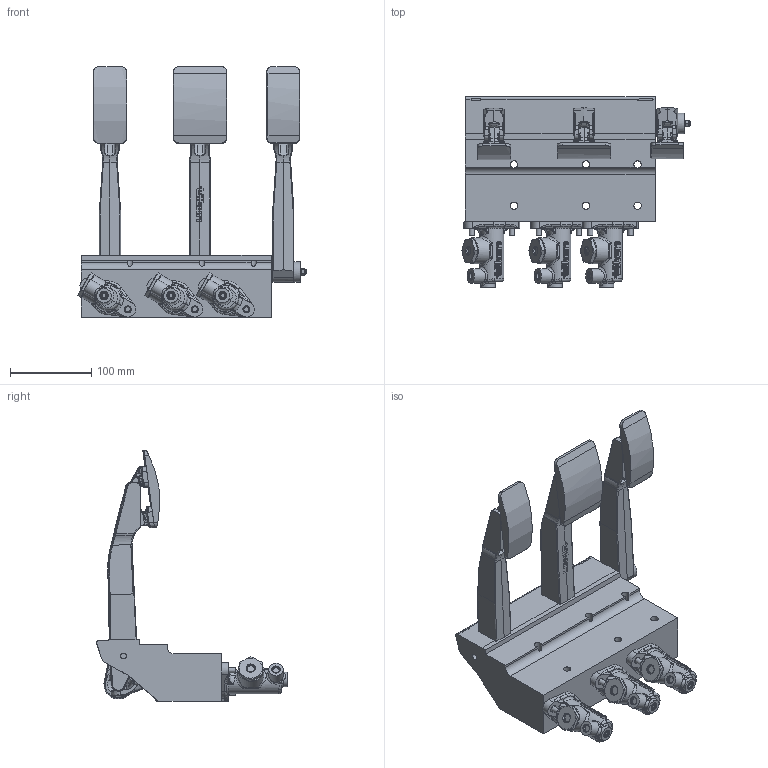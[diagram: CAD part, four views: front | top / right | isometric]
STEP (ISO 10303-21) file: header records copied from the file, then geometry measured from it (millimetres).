
FILE_DESCRIPTION( ( 'Unknown' ), '1' );
FILE_NAME( 'M:/ENG2/CAD/DRAWINGS/Solid Models For Customers (Simplified)/PEDAL ASSEMBLIES/72-616/TILTON 72-616 PEDAL ASSEMBLY WITH 76 SERIES MASTERS, SIMPLIFIED, 6111_NC.stp', 'Unknown', ( 'Unknown' ), ( 'Unknown' ), 'PSStep 16.0.42', 'Unknown', ' ' );
FILE_SCHEMA( ( 'AUTOMOTIVE_DESIGN { 1 0 10303 214 1 1 1 1 }' ) );
Length unit declared in the file: millimetre
Products named in the file (1): 6110
Bounding box: 281.1 x 235.15 x 308.77 mm (x, y, z)
Volume: 2708945.5 mm3; surface area: 297397.3 mm2
Topology: 1 solids, 7 shells, 2557 faces, 6519 edges, 3925 vertices
Faces by surface type: bspline 830, cylinder 780, plane 661, cone 143, torus 83, sphere 58, extrusion 2
Full cylindrical faces by diameter (mm): 4.826 x1, 4.976 x16, 6.35 x3, 6.401 x5, 6.411 x1, 7.207 x1, 8.379 x3, 8.636 x6, 9 x6, 9.449 x1, 9.55 x1, 9.652 x1, 9.738 x3, 10.668 x1, 11.138 x5, 12.7 x1, 12.764 x2, 13.462 x1, 15.799 x2, 15.888 x4, 17.78 x6, 25.4 x1, 25.425 x1, 30 x3, 31.75 x3
Entity records: 190949 total; most frequent: CARTESIAN_POINT 116275, ORIENTED_EDGE 12372, DIRECTION 9783, EDGE_CURVE 6186, AXIS2_PLACEMENT_3D 3916, VERTEX_POINT 3836, EDGE_LOOP 2788, FACE_OUTER_BOUND 2644
